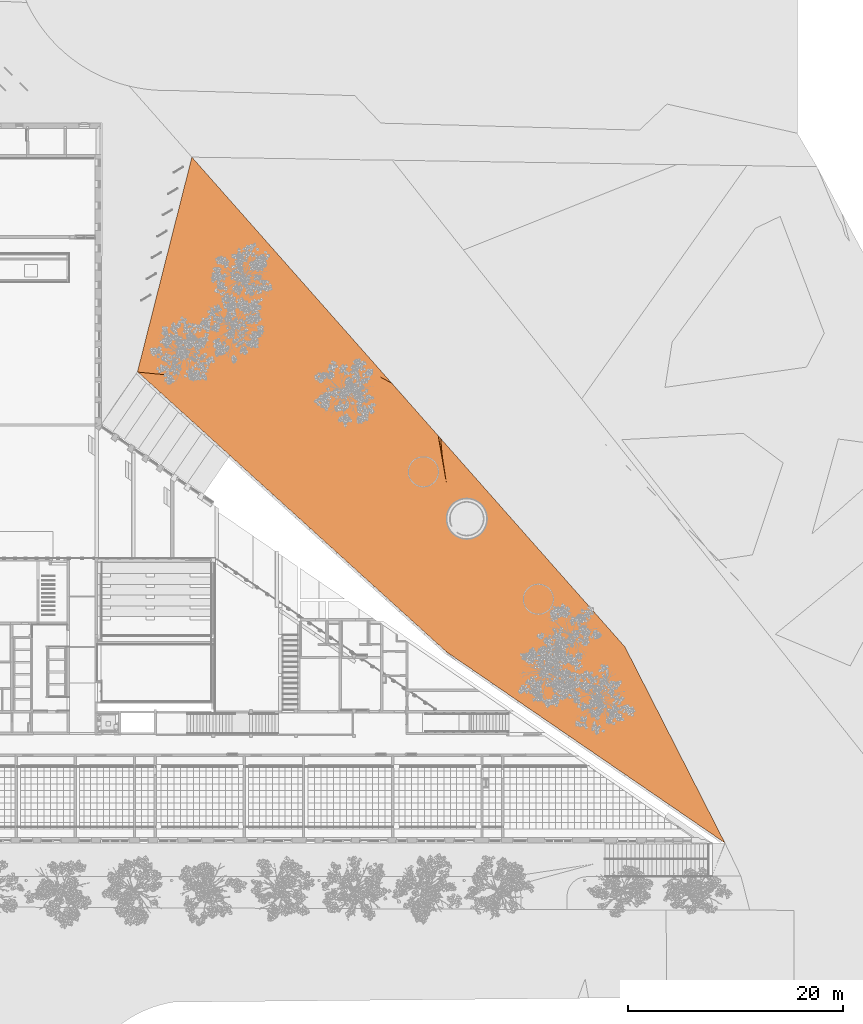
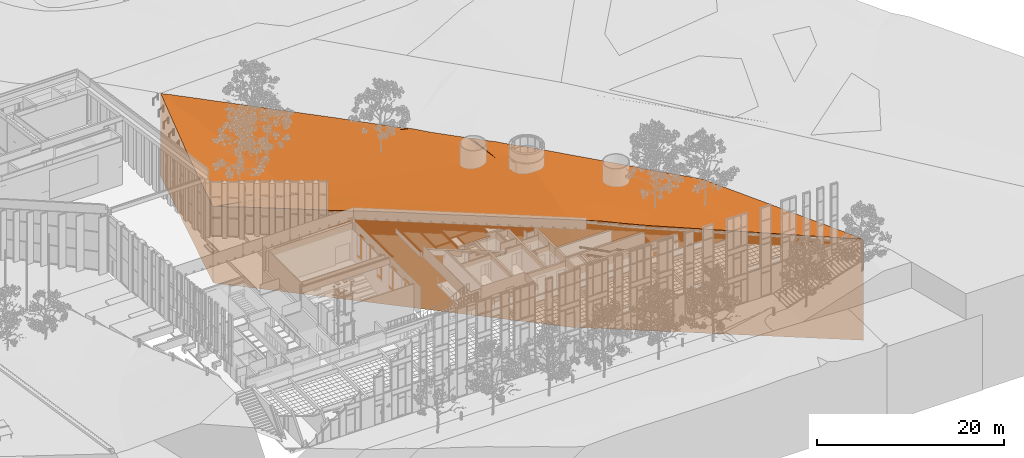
# One storey, part 240 of 246: 1 proxy.
"""IFC2X3 building model written with IfcOpenShell, lengths in millimetres."""

from ifc_helpers import new_model, entity, si_unit, converted_unit, derived_unit, money_unit, direction, frame, origin_with_axes, place, context, subcontext, project, spatial, faceted_brep, material, type_object, element, save


model = new_model("IFC2X3")

# Units and contexts
model_context = context("Model", 3, precision=0.01, world=origin_with_axes(), true_north=direction((0.0, 1.0)))
body_context = subcontext(model_context, "Body", "Model", "MODEL_VIEW")
ifc_project = project(units=[si_unit("LENGTHUNIT", "METRE", prefix="MILLI"), si_unit("AREAUNIT", "SQUARE_METRE"), si_unit("VOLUMEUNIT", "CUBIC_METRE"), converted_unit("PLANEANGLEUNIT", "DEGREE", entity("IfcPlaneAngleMeasure", 0.0174532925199), si_unit("PLANEANGLEUNIT", "RADIAN"), dimensions=[0, 0, 0, 0, 0, 0, 0]), si_unit("SOLIDANGLEUNIT", "STERADIAN"), money_unit("EUR"), converted_unit("TIMEUNIT", "Year", entity("IfcTimeMeasure", 31556926.0), si_unit("TIMEUNIT", "SECOND"), dimensions=[0, 0, 1, 0, 0, 0, 0]), si_unit("MASSUNIT", "GRAM", prefix="KILO"), si_unit("THERMODYNAMICTEMPERATUREUNIT", "DEGREE_CELSIUS"), si_unit("LUMINOUSINTENSITYUNIT", "LUMEN"), si_unit("ENERGYUNIT", "JOULE", prefix="MEGA"), derived_unit("THERMALCONDUCTANCEUNIT", [(si_unit("POWERUNIT", "WATT"), 1), (si_unit("LENGTHUNIT", "METRE"), -1), (si_unit("THERMODYNAMICTEMPERATUREUNIT", "KELVIN"), -1)]), derived_unit("SPECIFICHEATCAPACITYUNIT", [(si_unit("ENERGYUNIT", "JOULE"), 1), (si_unit("MASSUNIT", "GRAM", prefix="KILO"), -1), (si_unit("THERMODYNAMICTEMPERATUREUNIT", "KELVIN"), -1)]), derived_unit("MASSDENSITYUNIT", [(si_unit("MASSUNIT", "GRAM", prefix="KILO"), 1), (si_unit("VOLUMEUNIT", "CUBIC_METRE"), -1)])], contexts=[model_context])

# Site, building, storey
site_placement = place(None, origin_with_axes())
site = spatial("IfcSite", under=ifc_project, at=site_placement, Name="L.Koidula tn 11b", CompositionType="ELEMENT")
building_placement = place(site_placement, origin_with_axes())
building = spatial("IfcBuilding", under=site, at=building_placement, Name="Rakvere Riigigümnaasium", CompositionType="ELEMENT")
storey_placement = place(building_placement, origin_with_axes())
storey = spatial("IfcBuildingStorey", under=building, at=storey_placement, Name="1.korrus 0,00", CompositionType="ELEMENT", Elevation=0.0)

# Proxy
ifc_material = material(Name="Roheala")
building_element_proxy_type = type_object("IfcBuildingElementProxyType", Name="Roheala", PredefinedType="NOTDEFINED")
proxy_placement = place(storey_placement, frame((50958.0307505, 4995.77890436, -10000.0), z_axis=(0.0, 0.0, 1.0), x_axis=(1.0, 0.0, 0.0)))
element("IfcBuildingElementProxy", 1, at=proxy_placement, inside=storey, type_object=building_element_proxy_type, material=ifc_material, Name="Roheala", context=body_context, shape_type="Brep", body=[
    faceted_brep([(53062.3786358, 3339.89416615, 13198.7639244), (54753.0492192, 23.5074913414, 13199.4581981), (54765.0331728, 0.0, 13185.5257738), (54765.0331728, 0.0, 0.0), (45449.4937968, 18273.1816349, 0.0), (45449.4937968, 18273.1816349, 13200.9936361), (45449.794563, 18272.5916576, 13201.0065205), (52742.3772115, 3967.6027628, 13203.2443887), (52952.2322246, 3555.95523322, 13202.2434204), (53449.5659118, 902.308235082, 13185.1073979), (53823.1078589, 646.087510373, 13189.1838689), (28762.3042655, 17835.8497576, 14009.7063368), (28759.7649106, 17837.5915576, 14009.7332096), (28759.7649106, 17837.5915576, 0.0), (49855.5016568, 3367.55679804, 13294.748567), (49843.1266045, 3376.0451215, 13295.0035322), (45722.6773305, 6202.3528697, 13419.9127183), (45718.9397797, 6204.91653885, 13420.1164643), (40514.0832189, 9775.04334975, 13574.886849), (40510.4836187, 9777.51239558, 13574.8860857), (35772.4077205, 13027.4639741, 13699.6865368), (35768.8411562, 13029.9103599, 13699.6090123), (35761.5760088, 13034.893686, 13700.0), (33373.4749761, 14672.9452681, 13854.7734441), (33368.2772033, 14676.5105359, 13855.1166821), (31558.7016207, 15917.7386521, 14009.7114611), (28768.6995996, 17850.6173624, 0.0), (0.0, 43931.1622387, 0.0), (5071.15725027, 63932.8403014, 0.0), (45442.8153053, 18280.7336459, 13200.8920537), (5071.15725027, 63932.8403014, 10809.8860905), (5269.41889838, 63708.6468364, 10813.6507427), (5851.04044136, 63050.9515623, 10900.0), (5851.05677964, 63050.933087, 10900.0), (5904.6636168, 62990.3146937, 10900.0), (5970.61515916, 62915.7369579, 10899.1990021), (5979.49709851, 62905.693297, 10900.0), (7495.96423698, 61190.8784274, 11044.2157827), (8084.03700293, 60525.8881366, 11099.8021191), (8084.62344783, 60525.224987, 11099.8667476), (8086.24851126, 60523.3873719, 11100.0), (8114.03808914, 60491.9630303, 11100.0), (8195.40276367, 60399.9561875, 11099.8365088), (8197.2156511, 60397.9061817, 11100.0), (10414.9342052, 57890.1190647, 11300.0), (11441.2266691, 56729.5917225, 11399.9666642), (12559.9399688, 55464.5552753, 11499.8786858), (12629.6824922, 55385.6907136, 11499.7321331), (12632.6527587, 55382.3319483, 11500.0), (14850.3713126, 52874.5448316, 11700.0), (17068.0898667, 50366.7577145, 11900.0), (18144.6022763, 49149.441862, 11998.625368), (19551.0863357, 47558.9954108, 12096.9820529), (19580.001966, 47526.2977336, 12100.0), (22397.9637665, 44339.7579959, 12300.0), (23106.6246931, 43538.4071037, 12346.8244984), (23715.0760077, 42850.372833, 12495.7141257), (25122.8518005, 41258.4656948, 12493.3942492), (25215.9255673, 41153.218258, 12500.0), (27961.4676493, 38048.5704433, 12694.8601348), (28032.7760968, 37967.935141, 12698.3961426), (28033.8873678, 37966.6785203, 12700.0), (28269.1791828, 37700.6114933, 12798.9997722), (29694.3189589, 36089.0692335, 12839.0899258), (29986.9064254, 35758.2125169, 12898.0069692), (30003.0578838, 35739.9485134, 12898.8920493), (30833.2203761, 34801.2041451, 12897.4796466), (30851.8491686, 34780.1387823, 12900.0), (31846.858539, 33654.986235, 12968.7342942), (32241.706589, 33208.4936667, 12999.2421245), (32244.1901927, 33205.6852177, 13000.3232454), (38841.036736, 25745.9979893, 13100.0), (38893.2649292, 25686.9385609, 13100.0), (38972.286126, 25597.5817131, 13100.5033604), (42372.8425203, 21752.2463794, 13108.2279982), (45257.3619286, 18490.4435696, 13194.4317069), (45391.0233715, 18339.2997539, 13198.2012199), (43305.6351182, 16739.7822501, 13300.0), (44244.2787041, 16107.6805681, 13300.0), (28760.7014365, 17857.8681751, 14009.0656113), (28768.6995996, 17850.6173624, 14009.036452), (31095.7403175, 18939.2840631, 13900.0), (29302.6908324, 20772.7126472, 13900.0), (42417.2332363, 12908.6374187, 13500.0), (40034.522596, 14513.2032283, 13500.0), (37363.7233667, 15469.538478, 13500.0), (32888.3727796, 19807.9455981, 13700.0), (0.108216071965, 43931.0641344, 9949.54808554), (0.0, 43931.1622387, 9949.5466899), (28676.1490319, 17934.5199812, 13998.332513), (27685.2399138, 18832.8382953, 13855.0), (27649.9189404, 18864.8588678, 13848.4173603), (25597.4700495, 20725.5264041, 13551.3272556), (25588.720628, 20733.4582774, 13550.1449362), (25556.2212668, 20762.9208899, 13543.9683247), (25554.6898281, 20764.3092305, 13543.1899959), (24342.087809, 21863.6054037, 13393.3833196), (24309.9976681, 21892.6970335, 13387.8817707), (23122.457607, 22969.2730445, 13236.5538048), (23096.7297035, 22992.5969261, 13232.3863066), (21834.3828983, 24136.9897196, 13080.3935621), (21812.5396206, 24156.7919558, 13077.0235466), (20695.1919352, 25169.7343848, 12924.5807036), (20677.6810098, 25185.6090848, 12921.9229967), (20674.9322663, 25188.100985, 12921.5300747), (19556.7302716, 26201.8178964, 12768.9733193), (19540.3559105, 26216.662233, 12766.5190561), (18419.266666, 27232.9966088, 12613.4967424), (18404.6455241, 27246.2515475, 12611.3267152), (15917.6097477, 29500.8980583, 12304.9399188), (15902.532728, 29514.5662774, 12302.7765207), (14658.8171358, 30642.0687634, 12149.4496771), (14650.1102589, 30649.9620675, 12148.2159714), (14631.2391096, 30667.0698917, 12145.5233552), (13572.2653828, 31627.0928399, 11994.0351866), (13559.6616646, 31638.5188633, 11992.2481063), (13547.9061426, 31649.1759464, 11990.5597118), (12486.1529175, 32611.7186758, 11838.6778162), (12480.0027199, 32617.2941974, 11837.8052635), (12459.0032974, 32636.3314284, 11834.5510805), (11511.5148472, 33495.286313, 11683.3666867), (11500.8221106, 33504.9799175, 11681.8390373), (9573.47263623, 35252.237359, 11374.3708321), (9562.91037282, 35261.8126818, 11372.8440426), (9540.64143062, 35282.0008083, 11369.8425177), (8439.86963843, 36279.9161998, 11219.0475486), (8436.34647003, 36283.1101625, 11218.5397588), (7305.97042966, 37307.8635736, 11063.7557503), (6175.26303603, 38332.9173762, 10908.8674963), (6172.63051355, 38335.3039151, 10908.4899735), (6170.28741592, 38337.4280731, 10908.1539563), (4006.96467037, 40298.6093824, 10599.3046615), (4005.35768202, 40300.0662133, 10599.0742982), (2919.1893969, 41284.7426533, 10444.0333054), (2918.00565687, 41285.8157843, 10443.8636456), (1923.32503721, 42187.5531899, 10289.8750088), (1922.49408386, 42188.3064987, 10289.755557), (552.756165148, 43430.0557524, 10057.7725214), (552.351280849, 43430.4228042, 10057.7138127), (551.429243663, 43431.258686, 10057.4653508), (42.2797069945, 43892.8331584, 9945.19635139), (5004.43789352, 63669.6855562, 10800.0159015), (922.657243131, 47570.3105097, 9900.0), (1527.07339203, 49954.2510246, 9952.09281819), (2081.64271643, 52141.5855012, 9999.32911608), (2700.7908644, 54583.6320239, 10099.2814657), (2705.27165496, 54601.3051753, 10100.0), (2708.72343754, 54614.9197096, 10101.0509402), (3034.7260675, 55900.740545, 10200.266198), (3248.15372655, 56742.5427442, 10265.3019703), (3506.50393973, 57761.5286554, 10343.9580131), (3690.11032107, 58485.7096556, 10399.8195189), (3691.66161181, 58491.8282626, 10400.2920357), (3819.20371098, 58994.880304, 10439.1684675), (4264.63448022, 60751.7500688, 10574.7795027), (4347.05094386, 61076.8174038, 10599.8468195), (4348.87302337, 61084.0040569, 10600.4020021), (4407.92580035, 61316.9202485, 10618.4074711), (4997.79924569, 63643.5013757, 10797.9912508), (5004.37965102, 63669.4558359, 10800.0296938), (5848.71380724, 63049.0324615, 10900.0), (5430.13016002, 62149.1378713, 10700.0), (13665.1243584, 46036.3222955, 10700.0), (14358.0954978, 46511.8978015, 10900.0), (8085.14500987, 60522.4922087, 11100.0), (15051.0666372, 46987.4733075, 11100.0), (15744.0377768, 47463.0488145, 11300.0), (16437.008916, 47938.6243186, 11500.0), (17129.9800556, 48414.1998246, 11700.0), (17822.9511951, 48889.7753306, 11900.0), (19636.1114545, 47243.1303756, 12100.0), (22569.4608341, 43474.2649632, 12300.0), (25502.8102133, 39705.3995481, 12500.0), (28831.37217, 33399.3730402, 12500.0), (28436.1595927, 35936.5341339, 12700.0), (30100.4405711, 32783.5208799, 12700.0), (31369.5089722, 32167.6687206, 12900.0), (30956.1453443, 29888.6775072, 13100.0), (38266.2701659, 22413.9302043, 13100.0), (38564.3499575, 21835.367019, 13100.0), (41513.3574403, 20779.413514, 13100.0), (41786.0640022, 21811.6612326, 13100.0), (38921.972343, 25620.3881328, 13100.0), (29716.0544602, 23051.7038625, 13700.0), (27694.4837448, 19182.9473734, 13855.0), (37964.0366622, 18652.4527485, 13300.0), (34681.0052418, 20676.6071332, 13500.0), (937.505819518, 47570.7977881, 9900.0), (26870.7649983, 20239.0422238, 13700.0), (26047.046252, 21295.1370742, 13500.0), (25223.3275057, 22351.2319247, 13300.0), (24399.6087593, 23407.3267751, 13100.0), (23575.890013, 24463.4216255, 12900.0), (22752.1712666, 25519.5164759, 12700.0), (21928.4525202, 26575.6113273, 12500.0), (21104.7337739, 27631.7061777, 12300.0), (20281.0150275, 28687.8010281, 12100.0), (19457.2962812, 29743.8958786, 11900.0), (18633.5775349, 30799.990729, 11700.0), (17809.8587886, 31856.0855794, 11500.0), (16986.1400423, 32912.1804298, 11300.0), (16162.421296, 33968.2752802, 11100.0), (15338.7025496, 35024.3701307, 10900.0), (14514.9838033, 36080.464982, 10700.0), (13691.2650569, 37136.5598324, 10500.0), (12867.5463106, 38192.6546828, 10300.0), (12043.8275643, 39248.7495333, 10100.0), (11220.1088179, 40304.8443837, 9900.0), (10396.3900715, 41360.9392341, 9700.0), (2631.28301825, 43635.8805092, 9700.0), (3913.59182767, 51459.1490858, 9900.0), (2705.36140328, 54601.2726003, 10100.0), (6578.03224983, 56240.1974517, 10300.0), (3366.58310641, 57190.3135444, 10300.0), (6004.08120489, 59194.667662, 10500.0), (4027.80480933, 59779.3544866, 10500.0), (4689.02651234, 62368.3954308, 10700.0), (12972.153219, 45560.7467914, 10500.0), (17409.7565596, 38942.0424735, 10700.0), (18678.8249606, 38326.1903141, 10900.0), (19947.8933619, 37710.3381548, 11100.0), (21216.961763, 37094.4859954, 11300.0), (22486.0301642, 36478.6338361, 11500.0), (23755.0985654, 35862.7816767, 11700.0), (25024.1669664, 35246.9295174, 11900.0), (26293.2353677, 34631.077358, 12100.0), (27562.3037688, 34015.2251996, 12300.0), (36473.6377038, 21545.2686683, 13300.0), (30542.7817162, 27609.6862911, 13300.0), (30129.4180883, 25330.6950768, 13500.0), (16140.6881585, 39557.8946328, 10500.0), (14871.6197571, 40173.7467931, 10300.0), (13602.5513561, 40789.5989525, 10100.0), (12333.4829549, 41405.4511118, 9900.0), (11064.4145537, 42021.3032712, 9700.0), (6984.30230733, 43175.3478423, 9500.0), (9572.67132524, 42417.0340845, 9500.0), (6012.47987738, 48053.5220565, 9700.0), (7725.93433969, 50331.2570331, 9900.0), (7151.98329482, 53285.7272424, 10100.0), (12279.1820795, 45085.1712854, 10300.0), (11586.21094, 44609.5957784, 10100.0), (10893.2398006, 44134.0202743, 9900.0), (10200.2686611, 43658.4447683, 9700.0), (9795.34615265, 42637.1554305, 9500.0), (8111.36792699, 44647.8950253, 9500.0), (9507.29752164, 43182.8692623, 9500.0), (8873.83642942, 44422.3166144, 9500.0), (8299.88538467, 47376.7868237, 9700.0)], [[[0, 1, 2, 3, 4, 5, 6, 7, 8]], [[1, 0, 9, 10]], [[10, 2, 1]], [[11, 12, 13, 3, 2, 10, 9, 14, 15, 16, 17, 18, 19, 20, 21, 22, 23, 24, 25]], [[26, 27, 28, 4, 3, 13]], [[29, 5, 4, 28, 30, 31, 32, 33, 34, 35, 36, 37, 38, 39, 40, 41, 42, 43, 44, 45, 46, 47, 48, 49, 50, 51, 52, 53, 54, 55, 56, 57, 58, 59, 60, 61, 62, 63, 64, 65, 66, 67, 68, 69, 70, 71, 72, 73, 74, 75, 76]], [[6, 5, 29, 77, 78]], [[7, 6, 78]], [[8, 7, 78, 15, 14]], [[14, 9, 0, 8]], [[79, 80, 12, 11, 81, 82]], [[12, 80, 26, 13]], [[16, 15, 78]], [[17, 16, 78, 83]], [[18, 17, 83]], [[19, 18, 83, 84]], [[20, 19, 84]], [[21, 20, 84, 85]], [[22, 21, 85, 86]], [[23, 22, 86]], [[24, 23, 86, 81]], [[25, 24, 81]], [[11, 25, 81]], [[87, 88, 27, 26, 80, 79, 89, 90, 91, 92, 93, 94, 95, 96, 97, 98, 99, 100, 101, 102, 103, 104, 105, 106, 107, 108, 109, 110, 111, 112, 113, 114, 115, 116, 117, 118, 119, 120, 121, 122, 123, 124, 125, 126, 127, 128, 129, 130, 131, 132, 133, 134, 135, 136, 137, 138, 139, 140]], [[141, 30, 28, 27, 88, 142, 143, 144, 145, 146, 147, 148, 149, 150, 151, 152, 153, 154, 155, 156, 157, 158, 159]], [[31, 30, 141]], [[32, 31, 141, 159, 160]], [[33, 32, 160]], [[34, 33, 160]], [[35, 34, 160, 161]], [[36, 35, 161, 162, 163]], [[37, 36, 163, 164]], [[38, 37, 164]], [[39, 38, 164]], [[40, 39, 164]], [[41, 40, 164]], [[42, 41, 164, 163]], [[43, 42, 163, 165]], [[44, 43, 165, 166]], [[45, 44, 166]], [[46, 45, 166]], [[47, 46, 166]], [[48, 47, 166, 167]], [[49, 48, 167, 168]], [[50, 49, 168, 169]], [[51, 50, 169]], [[52, 51, 169]], [[53, 52, 169, 170]], [[54, 53, 170, 171]], [[55, 54, 171]], [[56, 55, 171]], [[57, 56, 171]], [[58, 57, 171, 172]], [[59, 58, 172]], [[60, 59, 172, 173]], [[61, 60, 173, 174]], [[62, 61, 174]], [[63, 62, 174]], [[64, 63, 174]], [[65, 64, 174, 175]], [[66, 65, 175]], [[67, 66, 175, 176]], [[68, 67, 176]], [[69, 68, 176]], [[70, 69, 176, 177]], [[71, 70, 177]], [[72, 71, 177, 178, 179, 180, 181, 182]], [[73, 72, 182]], [[74, 73, 182, 181]], [[75, 74, 181]], [[76, 75, 181, 180]], [[29, 76, 180, 77]], [[83, 78, 77, 84]], [[183, 82, 81, 86]], [[89, 79, 82, 184]], [[185, 85, 84, 77]], [[85, 186, 86]], [[142, 88, 87, 187]], [[90, 89, 184]], [[91, 90, 184, 188]], [[92, 91, 188]], [[93, 92, 188]], [[94, 93, 188, 189]], [[95, 94, 189]], [[96, 95, 189]], [[97, 96, 189, 190]], [[98, 97, 190]], [[99, 98, 190, 191]], [[100, 99, 191]], [[101, 100, 191, 192]], [[102, 101, 192]], [[103, 102, 192, 193]], [[104, 103, 193]], [[105, 104, 193]], [[106, 105, 193, 194]], [[107, 106, 194]], [[108, 107, 194, 195]], [[109, 108, 195]], [[110, 109, 195, 196]], [[111, 110, 196]], [[112, 111, 196, 197]], [[113, 112, 197]], [[114, 113, 197]], [[115, 114, 197, 198]], [[116, 115, 198]], [[117, 116, 198]], [[118, 117, 198, 199]], [[119, 118, 199]], [[120, 119, 199]], [[121, 120, 199, 200]], [[122, 121, 200]], [[123, 122, 200, 201]], [[124, 123, 201]], [[125, 124, 201]], [[126, 125, 201, 202]], [[127, 126, 202]], [[128, 127, 202]], [[129, 128, 202, 203]], [[130, 129, 203, 204]], [[131, 130, 204]], [[132, 131, 204, 205]], [[133, 132, 205]], [[134, 133, 205, 206]], [[135, 134, 206]], [[136, 135, 206, 207]], [[137, 136, 207]], [[138, 137, 207, 208]], [[139, 138, 208, 209]], [[140, 139, 209]], [[87, 140, 209, 187]], [[143, 142, 187]], [[144, 143, 187, 210]], [[145, 144, 210, 211]], [[146, 145, 211]], [[147, 146, 211]], [[148, 147, 211, 212]], [[149, 148, 212, 213]], [[150, 149, 213]], [[151, 150, 213, 212]], [[152, 151, 212, 214]], [[153, 152, 214, 215]], [[154, 153, 215]], [[155, 154, 215, 214]], [[156, 155, 214, 161]], [[157, 156, 161, 216]], [[158, 157, 216]], [[159, 158, 216, 160]], [[161, 160, 216]], [[161, 214, 217, 162]], [[162, 218, 219, 163]], [[220, 165, 163, 219]], [[166, 165, 220, 221]], [[166, 221, 222, 167]], [[168, 167, 222, 223]], [[168, 223, 224, 169]], [[170, 169, 224, 225]], [[226, 171, 170, 225]], [[171, 226, 173, 172]], [[175, 174, 173]], [[175, 193, 192, 176]], [[191, 177, 176, 192]], [[227, 178, 177, 228]], [[185, 179, 178, 227]], [[77, 180, 179, 185]], [[82, 183, 188]], [[229, 183, 86, 186]], [[184, 82, 188]], [[227, 186, 85, 185]], [[188, 183, 229, 189]], [[189, 229, 228, 190]], [[190, 228, 177, 191]], [[173, 194, 193, 175]], [[173, 226, 195, 194]], [[195, 226, 225, 196]], [[225, 224, 197, 196]], [[224, 223, 198, 197]], [[223, 222, 199, 198]], [[199, 222, 221, 200]], [[221, 220, 201, 200]], [[219, 202, 201, 220]], [[219, 218, 203, 202]], [[203, 218, 230, 204]], [[231, 205, 204, 230]], [[231, 232, 206, 205]], [[233, 207, 206, 232]], [[233, 234, 208, 207]], [[235, 209, 208, 236]], [[209, 237, 210, 187]], [[211, 210, 238, 239]], [[239, 212, 211]], [[214, 212, 240, 217]], [[217, 230, 218, 162]], [[228, 229, 186, 227]], [[240, 231, 230, 217]], [[231, 240, 241, 232]], [[232, 241, 242, 233]], [[243, 234, 233, 242]], [[234, 244, 236, 208]], [[237, 209, 235, 245]], [[244, 246, 247, 245, 235, 236]], [[248, 238, 210, 237]], [[239, 238, 242, 241]], [[212, 239, 241, 240]], [[246, 244, 234, 243]], [[243, 242, 238, 248]], [[237, 245, 247, 248]], [[246, 243, 248, 247]]]),
])

save(model, "model.ifc")
